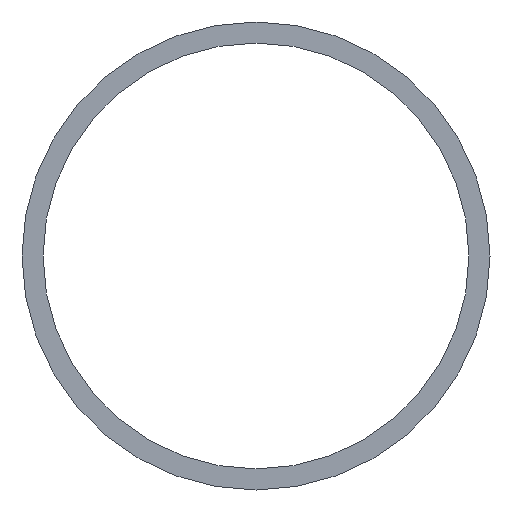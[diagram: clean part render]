
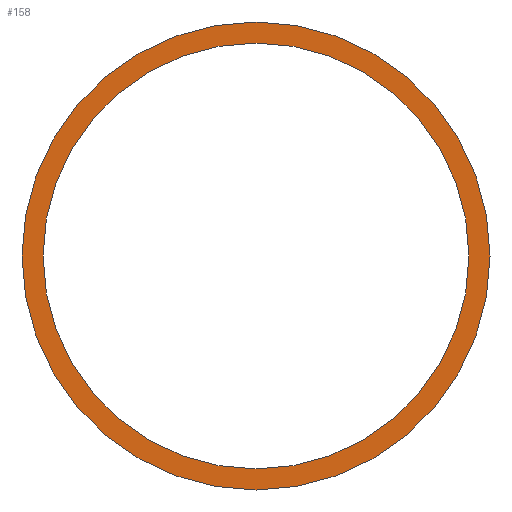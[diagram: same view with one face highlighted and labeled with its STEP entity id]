
A CAD part, front view. The second image highlights one B-rep face of the part: STEP entity #158.
In plain terms, the highlighted planar face has unit normal (0, -1, 0).
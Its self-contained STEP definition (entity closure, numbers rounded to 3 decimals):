
#49 = CYLINDRICAL_SURFACE('',#50,18.9);
#50 = AXIS2_PLACEMENT_3D('',#51,#52,#53);
#51 = CARTESIAN_POINT('',(0.,-36.6,46.5));
#52 = DIRECTION('',(0.,1.,0.));
#53 = DIRECTION('',(0.,-0.,1.));
#74 = VERTEX_POINT('',#75);
#75 = CARTESIAN_POINT('',(0.,-36.6,65.4));
#96 = EDGE_CURVE('',#74,#74,#97,.T.);
#97 = SURFACE_CURVE('',#98,(#103,#110),.PCURVE_S1.);
#98 = CIRCLE('',#99,18.9);
#99 = AXIS2_PLACEMENT_3D('',#100,#101,#102);
#100 = CARTESIAN_POINT('',(0.,-36.6,46.5));
#101 = DIRECTION('',(0.,1.,0.));
#102 = DIRECTION('',(0.,-0.,1.));
#103 = PCURVE('',#49,#104);
#104 = DEFINITIONAL_REPRESENTATION('',(#105),#109);
#105 = LINE('',#106,#107);
#106 = CARTESIAN_POINT('',(0.,0.));
#107 = VECTOR('',#108,1.);
#108 = DIRECTION('',(1.,0.));
#109 = ( GEOMETRIC_REPRESENTATION_CONTEXT(2) 
PARAMETRIC_REPRESENTATION_CONTEXT() REPRESENTATION_CONTEXT('2D SPACE',''
  ) );
#110 = PCURVE('',#111,#116);
#111 = PLANE('',#112);
#112 = AXIS2_PLACEMENT_3D('',#113,#114,#115);
#113 = CARTESIAN_POINT('',(0.,-36.6,46.5));
#114 = DIRECTION('',(0.,1.,0.));
#115 = DIRECTION('',(0.,-0.,1.));
#116 = DEFINITIONAL_REPRESENTATION('',(#117),#121);
#117 = CIRCLE('',#118,18.9);
#118 = AXIS2_PLACEMENT_2D('',#119,#120);
#119 = CARTESIAN_POINT('',(0.,0.));
#120 = DIRECTION('',(1.,0.));
#121 = ( GEOMETRIC_REPRESENTATION_CONTEXT(2) 
PARAMETRIC_REPRESENTATION_CONTEXT() REPRESENTATION_CONTEXT('2D SPACE',''
  ) );
#147 = CYLINDRICAL_SURFACE('',#148,17.2);
#148 = AXIS2_PLACEMENT_3D('',#149,#150,#151);
#149 = CARTESIAN_POINT('',(0.,-36.61,46.5));
#150 = DIRECTION('',(0.,1.,0.));
#151 = DIRECTION('',(0.,-0.,1.));
#158 = ADVANCED_FACE('',(#159,#162),#111,.F.);
#159 = FACE_BOUND('',#160,.F.);
#160 = EDGE_LOOP('',(#161));
#161 = ORIENTED_EDGE('',*,*,#96,.T.);
#162 = FACE_BOUND('',#163,.F.);
#163 = EDGE_LOOP('',(#164));
#164 = ORIENTED_EDGE('',*,*,#165,.F.);
#165 = EDGE_CURVE('',#166,#166,#168,.T.);
#166 = VERTEX_POINT('',#167);
#167 = CARTESIAN_POINT('',(0.,-36.6,63.7));
#168 = SURFACE_CURVE('',#169,(#174,#181),.PCURVE_S1.);
#169 = CIRCLE('',#170,17.2);
#170 = AXIS2_PLACEMENT_3D('',#171,#172,#173);
#171 = CARTESIAN_POINT('',(0.,-36.6,46.5));
#172 = DIRECTION('',(0.,1.,0.));
#173 = DIRECTION('',(0.,-0.,1.));
#174 = PCURVE('',#111,#175);
#175 = DEFINITIONAL_REPRESENTATION('',(#176),#180);
#176 = CIRCLE('',#177,17.2);
#177 = AXIS2_PLACEMENT_2D('',#178,#179);
#178 = CARTESIAN_POINT('',(0.,0.));
#179 = DIRECTION('',(1.,0.));
#180 = ( GEOMETRIC_REPRESENTATION_CONTEXT(2) 
PARAMETRIC_REPRESENTATION_CONTEXT() REPRESENTATION_CONTEXT('2D SPACE',''
  ) );
#181 = PCURVE('',#147,#182);
#182 = DEFINITIONAL_REPRESENTATION('',(#183),#187);
#183 = LINE('',#184,#185);
#184 = CARTESIAN_POINT('',(0.,0.01));
#185 = VECTOR('',#186,1.);
#186 = DIRECTION('',(1.,0.));
#187 = ( GEOMETRIC_REPRESENTATION_CONTEXT(2) 
PARAMETRIC_REPRESENTATION_CONTEXT() REPRESENTATION_CONTEXT('2D SPACE',''
  ) );
